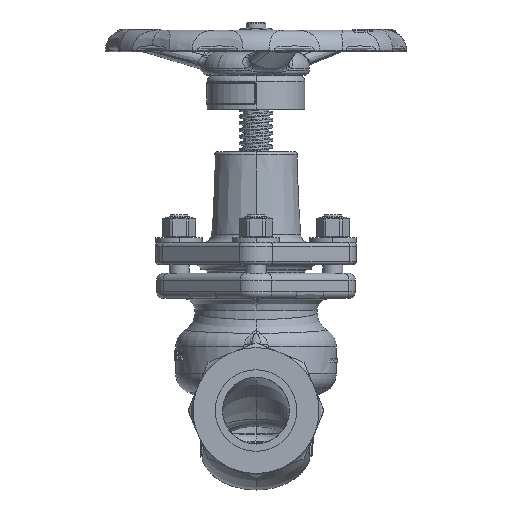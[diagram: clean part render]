
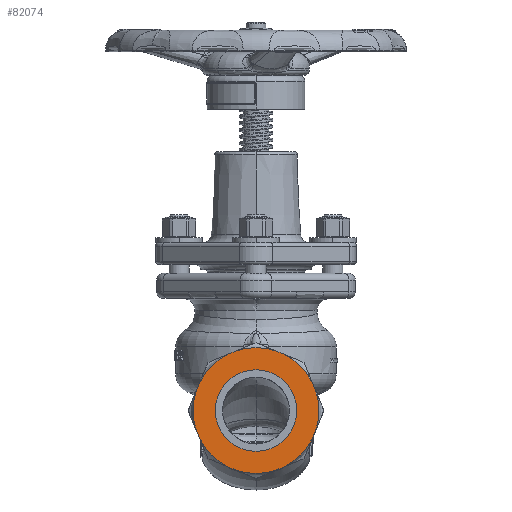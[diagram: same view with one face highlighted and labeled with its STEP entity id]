
A CAD part, left-side view. The second image highlights one B-rep face of the part: STEP entity #82074.
In plain terms, the highlighted planar face has unit normal (-1, 0, 0).
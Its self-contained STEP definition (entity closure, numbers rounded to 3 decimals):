
#18135=DIRECTION('',(0.,0.924,0.383));
#18136=VECTOR('',#18135,5.509);
#18137=CARTESIAN_POINT('',(-92.5,11.806,-35.7));
#18138=LINE('',#18137,#18136);
#18143=CARTESIAN_POINT('',(-92.5,0.,0.));
#18144=DIRECTION('',(-1.,0.,0.));
#18145=DIRECTION('',(0.,0.,1.));
#18146=AXIS2_PLACEMENT_3D('',#18143,#18144,#18145);
#18148=CARTESIAN_POINT('',(-92.5,0.,0.));
#18149=DIRECTION('',(-1.,0.,0.));
#18150=DIRECTION('',(0.,0.,-1.));
#18151=AXIS2_PLACEMENT_3D('',#18148,#18149,#18150);
#18153=DIRECTION('',(0.,-0.924,-0.383));
#18154=VECTOR('',#18153,5.509);
#18155=CARTESIAN_POINT('',(-92.5,-11.806,35.7));
#18156=LINE('',#18155,#18154);
#18161=CARTESIAN_POINT('',(-92.5,0.,0.));
#18162=DIRECTION('',(-1.,0.,0.));
#18163=DIRECTION('',(0.,-0.314,0.949));
#18164=AXIS2_PLACEMENT_3D('',#18161,#18162,#18163);
#18188=DIRECTION('',(0.,-0.924,0.383));
#18189=VECTOR('',#18188,5.509);
#18190=CARTESIAN_POINT('',(-92.5,16.895,33.591));
#18191=LINE('',#18190,#18189);
#18196=CARTESIAN_POINT('',(-92.5,0.,0.));
#18197=DIRECTION('',(-1.,0.,0.));
#18198=DIRECTION('',(0.,0.449,0.893));
#18199=AXIS2_PLACEMENT_3D('',#18196,#18197,#18198);
#18223=DIRECTION('',(0.,-0.383,0.924));
#18224=VECTOR('',#18223,5.509);
#18225=CARTESIAN_POINT('',(-92.5,35.7,11.806));
#18226=LINE('',#18225,#18224);
#18231=CARTESIAN_POINT('',(-92.5,0.,0.));
#18232=DIRECTION('',(-1.,0.,0.));
#18233=DIRECTION('',(0.,0.949,0.314));
#18234=AXIS2_PLACEMENT_3D('',#18231,#18232,#18233);
#18258=DIRECTION('',(0.,0.383,0.924));
#18259=VECTOR('',#18258,5.509);
#18260=CARTESIAN_POINT('',(-92.5,33.591,-16.895));
#18261=LINE('',#18260,#18259);
#18266=CARTESIAN_POINT('',(-92.5,0.,0.));
#18267=DIRECTION('',(-1.,0.,0.));
#18268=DIRECTION('',(0.,0.893,-0.449));
#18269=AXIS2_PLACEMENT_3D('',#18266,#18267,#18268);
#18389=DIRECTION('',(0.,-0.383,-0.924));
#18390=VECTOR('',#18389,5.509);
#18391=CARTESIAN_POINT('',(-92.5,-33.591,16.895));
#18392=LINE('',#18391,#18390);
#18397=CARTESIAN_POINT('',(-92.5,0.,0.));
#18398=DIRECTION('',(-1.,0.,0.));
#18399=DIRECTION('',(0.,-0.893,0.449));
#18400=AXIS2_PLACEMENT_3D('',#18397,#18398,#18399);
#18448=DIRECTION('',(0.,0.383,-0.924));
#18449=VECTOR('',#18448,5.509);
#18450=CARTESIAN_POINT('',(-92.5,-35.7,-11.806));
#18451=LINE('',#18450,#18449);
#18456=CARTESIAN_POINT('',(-92.5,0.,0.));
#18457=DIRECTION('',(-1.,0.,0.));
#18458=DIRECTION('',(0.,-0.949,-0.314));
#18459=AXIS2_PLACEMENT_3D('',#18456,#18457,#18458);
#18507=DIRECTION('',(0.,0.924,-0.383));
#18508=VECTOR('',#18507,5.509);
#18509=CARTESIAN_POINT('',(-92.5,-16.895,-33.591));
#18510=LINE('',#18509,#18508);
#18515=CARTESIAN_POINT('',(-92.5,0.,0.));
#18516=DIRECTION('',(-1.,0.,0.));
#18517=DIRECTION('',(0.,-0.449,-0.893));
#18518=AXIS2_PLACEMENT_3D('',#18515,#18516,#18517);
#18542=CARTESIAN_POINT('',(-92.5,0.,0.));
#18543=DIRECTION('',(-1.,0.,0.));
#18544=DIRECTION('',(0.,0.314,-0.949));
#18545=AXIS2_PLACEMENT_3D('',#18542,#18543,#18544);
#42075=CARTESIAN_POINT('',(-92.5,-11.806,35.7));
#42076=CARTESIAN_POINT('',(-92.5,-16.895,33.591));
#42077=VERTEX_POINT('',#42075);
#42078=VERTEX_POINT('',#42076);
#42083=CARTESIAN_POINT('',(-92.5,-33.591,16.895));
#42084=CARTESIAN_POINT('',(-92.5,-35.7,11.806));
#42085=VERTEX_POINT('',#42083);
#42086=VERTEX_POINT('',#42084);
#42091=CARTESIAN_POINT('',(-92.5,-35.7,-11.806));
#42092=CARTESIAN_POINT('',(-92.5,-33.591,-16.895));
#42093=VERTEX_POINT('',#42091);
#42094=VERTEX_POINT('',#42092);
#42099=CARTESIAN_POINT('',(-92.5,-16.895,-33.591));
#42100=CARTESIAN_POINT('',(-92.5,-11.806,-35.7));
#42101=VERTEX_POINT('',#42099);
#42102=VERTEX_POINT('',#42100);
#42107=CARTESIAN_POINT('',(-92.5,11.806,-35.7));
#42108=CARTESIAN_POINT('',(-92.5,16.895,-33.591));
#42109=VERTEX_POINT('',#42107);
#42110=VERTEX_POINT('',#42108);
#42115=CARTESIAN_POINT('',(-92.5,33.591,-16.895));
#42116=CARTESIAN_POINT('',(-92.5,35.7,-11.806));
#42117=VERTEX_POINT('',#42115);
#42118=VERTEX_POINT('',#42116);
#42123=CARTESIAN_POINT('',(-92.5,35.7,11.806));
#42124=CARTESIAN_POINT('',(-92.5,33.591,16.895));
#42125=VERTEX_POINT('',#42123);
#42126=VERTEX_POINT('',#42124);
#42131=CARTESIAN_POINT('',(-92.5,16.895,33.591));
#42132=CARTESIAN_POINT('',(-92.5,11.806,35.7));
#42133=VERTEX_POINT('',#42131);
#42134=VERTEX_POINT('',#42132);
#42147=CARTESIAN_POINT('',(-92.5,0.,24.35));
#42148=CARTESIAN_POINT('',(-92.5,0.,-24.35));
#42149=VERTEX_POINT('',#42147);
#42150=VERTEX_POINT('',#42148);
#82030=CARTESIAN_POINT('',(-92.5,0.,0.));
#82031=DIRECTION('',(-1.,0.,0.));
#82032=DIRECTION('',(0.,0.,1.));
#82033=AXIS2_PLACEMENT_3D('',#82030,#82031,#82032);
#82034=PLANE('',#82033);
#82036=ORIENTED_EDGE('',*,*,#82035,.T.);
#82038=ORIENTED_EDGE('',*,*,#82037,.F.);
#82040=ORIENTED_EDGE('',*,*,#82039,.T.);
#82042=ORIENTED_EDGE('',*,*,#82041,.F.);
#82044=ORIENTED_EDGE('',*,*,#82043,.T.);
#82046=ORIENTED_EDGE('',*,*,#82045,.F.);
#82048=ORIENTED_EDGE('',*,*,#82047,.T.);
#82050=ORIENTED_EDGE('',*,*,#82049,.F.);
#82051=ORIENTED_EDGE('',*,*,#82014,.T.);
#82053=ORIENTED_EDGE('',*,*,#82052,.F.);
#82055=ORIENTED_EDGE('',*,*,#82054,.T.);
#82057=ORIENTED_EDGE('',*,*,#82056,.F.);
#82059=ORIENTED_EDGE('',*,*,#82058,.T.);
#82061=ORIENTED_EDGE('',*,*,#82060,.F.);
#82063=ORIENTED_EDGE('',*,*,#82062,.T.);
#82065=ORIENTED_EDGE('',*,*,#82064,.F.);
#82066=EDGE_LOOP('',(#82036,#82038,#82040,#82042,#82044,#82046,#82048,#82050,
#82051,#82053,#82055,#82057,#82059,#82061,#82063,#82065));
#82067=FACE_OUTER_BOUND('',#82066,.F.);
#82069=ORIENTED_EDGE('',*,*,#82068,.T.);
#82071=ORIENTED_EDGE('',*,*,#82070,.T.);
#82072=EDGE_LOOP('',(#82069,#82071));
#82073=FACE_BOUND('',#82072,.F.);
#18147=CIRCLE('',#18146,24.35);
#18152=CIRCLE('',#18151,24.35);
#18165=CIRCLE('',#18164,37.601);
#18200=CIRCLE('',#18199,37.601);
#18235=CIRCLE('',#18234,37.601);
#18270=CIRCLE('',#18269,37.601);
#18401=CIRCLE('',#18400,37.601);
#18460=CIRCLE('',#18459,37.601);
#18519=CIRCLE('',#18518,37.601);
#18546=CIRCLE('',#18545,37.601);
#82014=EDGE_CURVE('',#42109,#42110,#18138,.T.);
#82035=EDGE_CURVE('',#42077,#42078,#18156,.T.);
#82037=EDGE_CURVE('',#42085,#42078,#18401,.T.);
#82039=EDGE_CURVE('',#42085,#42086,#18392,.T.);
#82041=EDGE_CURVE('',#42093,#42086,#18460,.T.);
#82043=EDGE_CURVE('',#42093,#42094,#18451,.T.);
#82045=EDGE_CURVE('',#42101,#42094,#18519,.T.);
#82047=EDGE_CURVE('',#42101,#42102,#18510,.T.);
#82049=EDGE_CURVE('',#42109,#42102,#18546,.T.);
#82052=EDGE_CURVE('',#42117,#42110,#18270,.T.);
#82054=EDGE_CURVE('',#42117,#42118,#18261,.T.);
#82056=EDGE_CURVE('',#42125,#42118,#18235,.T.);
#82058=EDGE_CURVE('',#42125,#42126,#18226,.T.);
#82060=EDGE_CURVE('',#42133,#42126,#18200,.T.);
#82062=EDGE_CURVE('',#42133,#42134,#18191,.T.);
#82064=EDGE_CURVE('',#42077,#42134,#18165,.T.);
#82068=EDGE_CURVE('',#42149,#42150,#18147,.T.);
#82070=EDGE_CURVE('',#42150,#42149,#18152,.T.);
#82074=ADVANCED_FACE('',(#82067,#82073),#82034,.T.);
